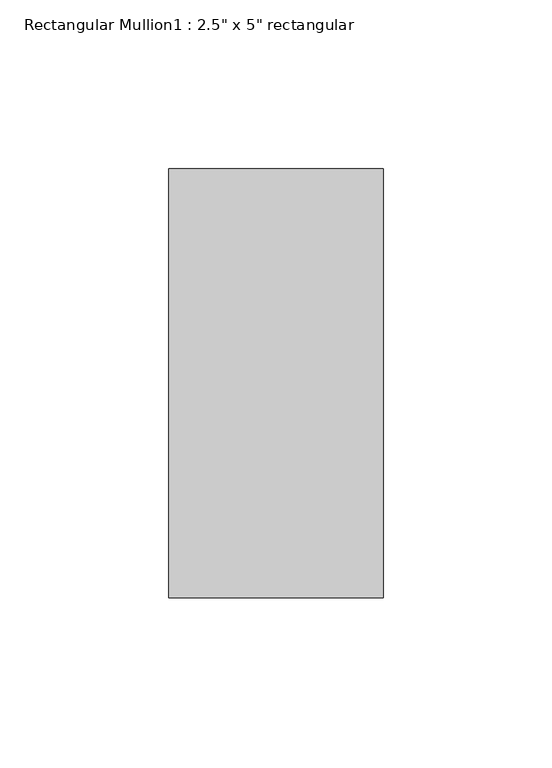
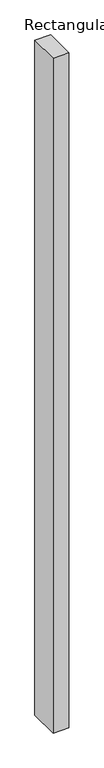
"""IFC4 building model written with IfcOpenShell, lengths in millimetres: member geometry."""

from ifc_helpers import new_model, si_unit, frame, origin, place, context, project, spatial, polyline, outline, extrude, source, transform, mapped, element, save


def member_ef0f639d(model_context):
    return source(origin(), model_context, "Body", "SweptSolid", [
        extrude(outline(polyline([(0.0, 63.5), (0.0, -63.5), (-63.5, -63.5), (-63.5, 63.5), (0.0, 63.5)])), frame((0.0, 0.0, -2884.17), z_axis=(0.0, 0.0, 1.0), x_axis=(1.0, 0.0, 0.0)), (0.0, 0.0, 1.0), 2884.17),
    ])


if __name__ == "__main__":
    model = new_model("IFC4")
    model_context = context("Model", 3, world=origin())
    ifc_project = project(units=[si_unit("LENGTHUNIT", "METRE", prefix="MILLI")], contexts=[model_context])
    site = spatial("IfcSite", under=ifc_project)
    building = spatial("IfcBuilding", under=site)
    placement = place(None, origin())
    member_shape = member_ef0f639d(model_context)
    element("IfcMember", 1, ObjectType="Rectangular Mullion1 : 2.5\" x 5\" rectangular", at=placement, inside=building, context=model_context, shape_type="MappedRepresentation", body=[
        mapped(member_shape, transform((0.0, 0.0, 0.0), x_axis=(1.0, 0.0, 0.0), y_axis=(0.0, 1.0, 0.0), z_axis=(0.0, 0.0, 1.0))),
    ])
    save(model, "model.ifc")
